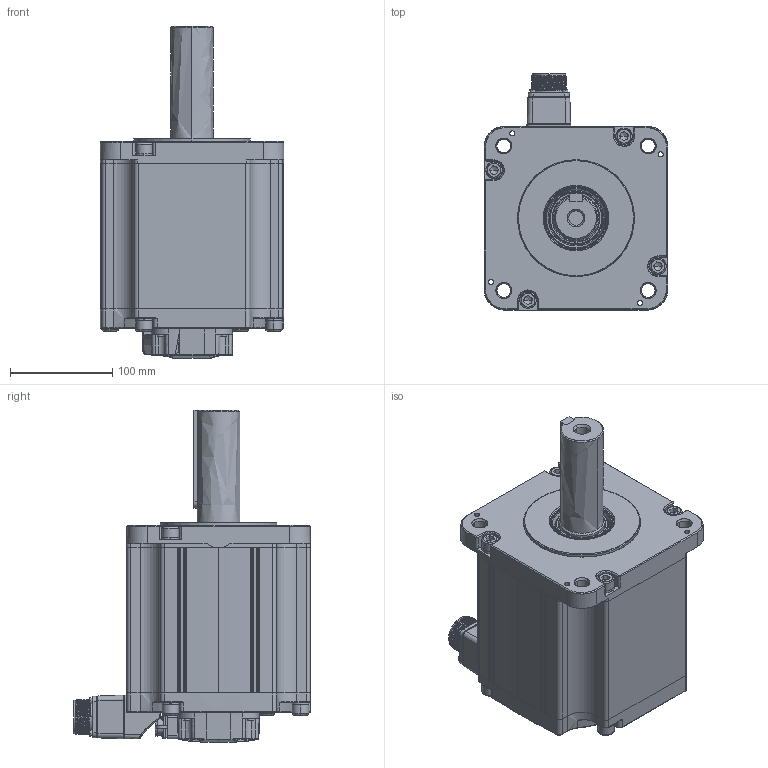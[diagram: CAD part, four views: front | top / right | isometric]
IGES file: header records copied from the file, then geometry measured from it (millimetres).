
Start section: SolidWorks IGES file using analytic representation for surfaces
Global section: file name: Z:\Products\Servo\08.2024\UNITRONICS\B6 MOTORS\UMM-0055EA-B6.IGS; native system: SolidWorks 2022; preprocessor: SolidWorks 2022; author: OfirZ; date: 240822.141911; units: millimetre
Bounding box: 180 x 231.9 x 325 mm (x, y, z)
Surface area: 282418.9 mm2 (no closed solid volume)
Topology: 0 solids, 0 shells, 1074 faces, 13599 edges, 13534 vertices
Faces by surface type: bspline 566, revolution 508
